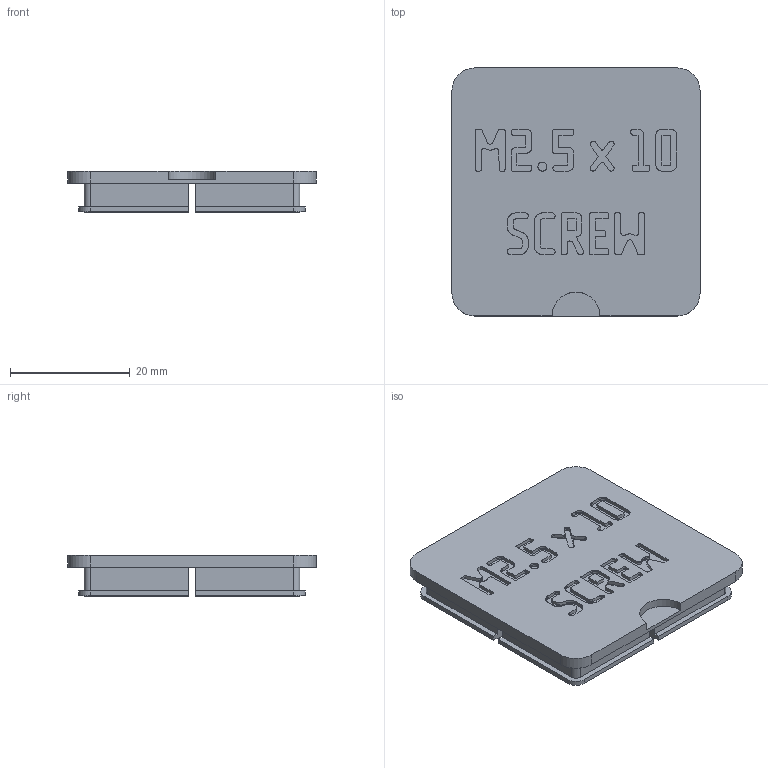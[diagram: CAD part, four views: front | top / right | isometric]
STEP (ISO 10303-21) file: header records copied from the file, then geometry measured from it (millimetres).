
FILE_DESCRIPTION(('Open CASCADE Model'),'2;1');
FILE_NAME('Open CASCADE Shape Model','2026-11-03T17:10:04',('Author'),( 'Open CASCADE'),'Open CASCADE STEP processor 8.0','build123d', 'Unknown');
FILE_SCHEMA(('AUTOMOTIVE_DESIGN { 1 0 10303 214 1 1 1 1 }'));
Products named in the file (1): COMPOUND
Bounding box: 41.5 x 41.5 x 6.9 mm (x, y, z)
Volume: 4173.4 mm3; surface area: 5567 mm2
Topology: 1 solids, 1 shells, 1320 faces, 3909 edges, 2606 vertices
Faces by surface type: plane 1299, cylinder 21
Entity records: 93974 total; most frequent: CARTESIAN_POINT 16010, DIRECTION 14215, LINE 11479, VECTOR 11479, ORIENTED_EDGE 7818, PCURVE 7818, DEFINITIONAL_REPRESENTATION 7818, EDGE_CURVE 3909
